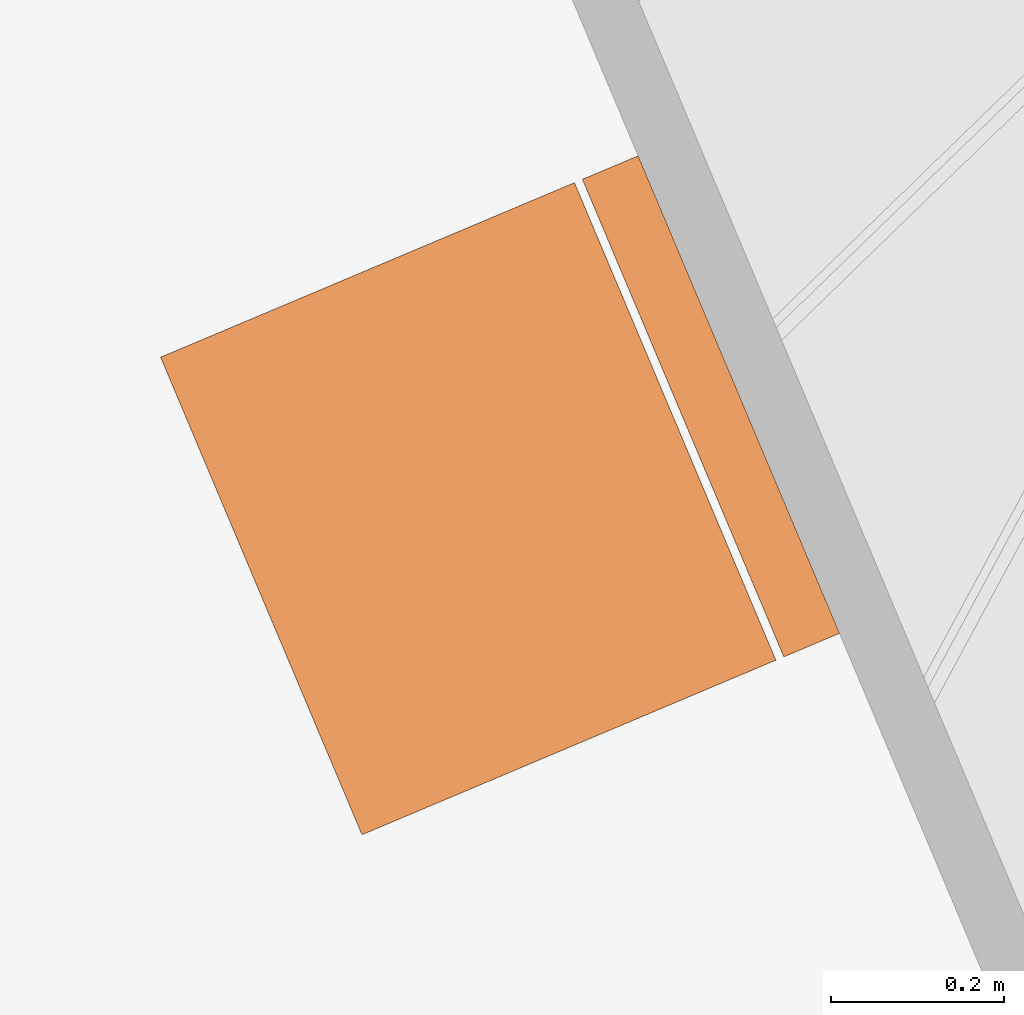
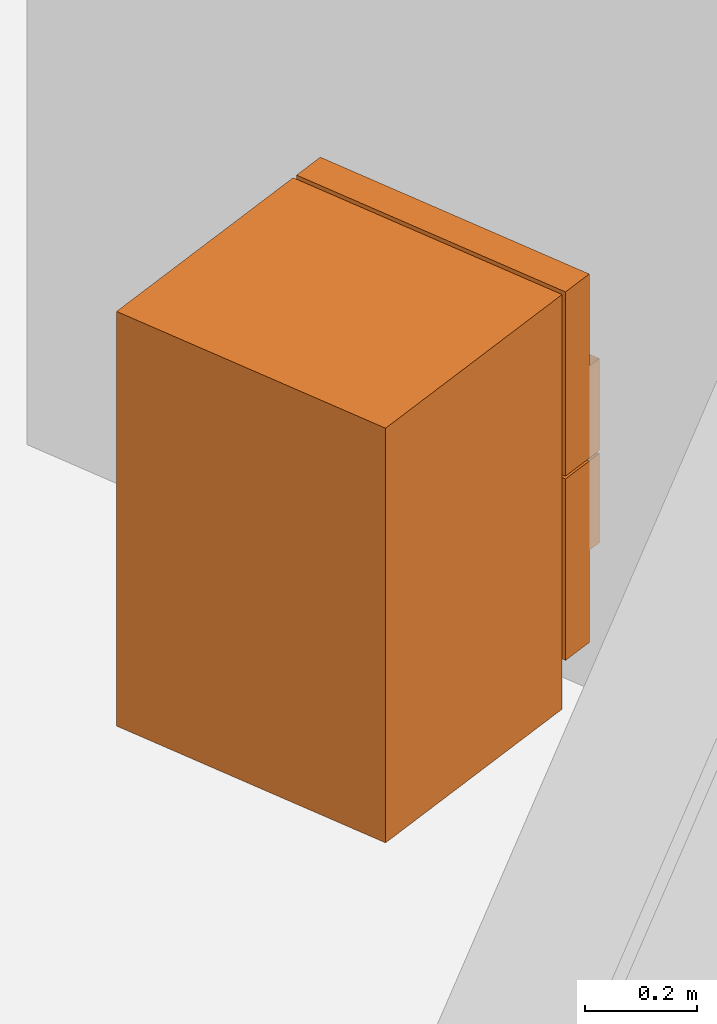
# One storey, part 176 of 195: 1 proxy.
"""IFC2X3 building model written with IfcOpenShell, lengths in metres."""

from ifc_helpers import new_model, entity, si_unit, converted_unit, derived_unit, money_unit, direction, frame, origin_with_axes, place, context, subcontext, project, spatial, open_shell, faceted_brep, surface_model, source, transform, mapped, type_object, element, save


model = new_model("IFC2X3")

# Units and contexts
model_context = context("Model", 3, precision=1e-05, world=origin_with_axes(), true_north=direction((0.0, 1.0)))
body_context = subcontext(model_context, "Body", "Model", "MODEL_VIEW")
ifc_project = project(units=[si_unit("LENGTHUNIT", "METRE"), si_unit("AREAUNIT", "SQUARE_METRE"), si_unit("VOLUMEUNIT", "CUBIC_METRE"), converted_unit("PLANEANGLEUNIT", "DEGREE", entity("IfcPlaneAngleMeasure", 0.0174532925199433), si_unit("PLANEANGLEUNIT", "RADIAN"), dimensions=[0, 0, 0, 0, 0, 0, 0]), money_unit("CHF"), converted_unit("TIMEUNIT", "Year", entity("IfcTimeMeasure", 31557600.0), si_unit("TIMEUNIT", "SECOND"), dimensions=[0, 0, 1, 0, 0, 0, 0]), si_unit("MASSUNIT", "GRAM", prefix="KILO"), si_unit("THERMODYNAMICTEMPERATUREUNIT", "DEGREE_CELSIUS"), si_unit("LUMINOUSINTENSITYUNIT", "LUMEN"), si_unit("ENERGYUNIT", "JOULE", prefix="MEGA"), derived_unit("THERMALCONDUCTANCEUNIT", [(si_unit("POWERUNIT", "WATT"), 1), (si_unit("LENGTHUNIT", "METRE"), -1), (si_unit("THERMODYNAMICTEMPERATUREUNIT", "KELVIN"), -1)]), derived_unit("SPECIFICHEATCAPACITYUNIT", [(si_unit("ENERGYUNIT", "JOULE"), 1), (si_unit("MASSUNIT", "GRAM", prefix="KILO"), -1), (si_unit("THERMODYNAMICTEMPERATUREUNIT", "KELVIN"), -1)]), derived_unit("MASSDENSITYUNIT", [(si_unit("MASSUNIT", "GRAM", prefix="KILO"), 1), (si_unit("VOLUMEUNIT", "CUBIC_METRE"), -1)])], contexts=[model_context])

# Site, building, storey
site_placement = place(None, origin_with_axes())
site = spatial("IfcSite", under=ifc_project, at=site_placement, Name="Site", CompositionType="ELEMENT")
building_placement = place(site_placement, origin_with_axes())
building = spatial("IfcBuilding", under=site, at=building_placement, Name="Bâtiment", CompositionType="ELEMENT")
storey_placement = place(building_placement, origin_with_axes())
storey = spatial("IfcBuildingStorey", under=building, at=storey_placement, Name="rdc", CompositionType="ELEMENT", Elevation=0.0)

# Proxy
building_element_proxy_type = type_object("IfcBuildingElementProxyType", PredefinedType="NOTDEFINED")
shared_shape = source(origin_with_axes(), body_context, "Body", "SurfaceModel", [
    faceted_brep([(0.0, 0.08, 0.1), (0.0, 0.08, 0.9), (-0.6, 0.08, 0.9), (-0.6, 0.08, 0.1), (0.0, 0.6, 0.1), (0.0, 0.6, 0.9), (-0.6, 0.6, 0.9), (-0.6, 0.6, 0.1)], [[[0, 1, 2, 3]], [[4, 5, 1, 0]], [[1, 5, 6, 2]], [[3, 2, 6, 7]], [[0, 3, 7, 4]], [[7, 6, 5, 4]]]),
    faceted_brep([(0.0, 0.08, 0.0), (0.0, 0.08, 0.1), (-0.6, 0.08, 0.1), (-0.6, 0.08, 0.0), (0.0, 0.6, 0.0), (0.0, 0.6, 0.1), (-0.6, 0.6, 0.1), (-0.6, 0.6, 0.0)], [[[0, 1, 2, 3]], [[4, 5, 1, 0]], [[1, 5, 6, 2]], [[3, 2, 6, 7]], [[0, 3, 7, 4]], [[7, 6, 5, 4]]]),
    faceted_brep([(0.0, 0.07, 0.1), (0.0, 0.0, 0.1), (-0.6, 0.0, 0.1), (-0.6, 0.07, 0.1), (0.0, 0.07000000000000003, 0.494), (0.0, 0.0, 0.494), (-0.6, 0.0, 0.494), (-0.6, 0.07000000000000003, 0.494)], [[[0, 1, 2, 3]], [[4, 5, 1, 0]], [[1, 5, 6, 2]], [[3, 2, 6, 7]], [[0, 3, 7, 4]], [[7, 6, 5, 4]]]),
    faceted_brep([(0.0, 0.07, 0.5), (0.0, 0.0, 0.5), (-0.6, 0.0, 0.5), (-0.6, 0.07, 0.5), (0.0, 0.07000000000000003, 0.9), (0.0, 0.0, 0.9), (-0.6, 0.0, 0.9), (-0.6, 0.07000000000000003, 0.9)], [[[0, 1, 2, 3]], [[4, 5, 1, 0]], [[1, 5, 6, 2]], [[3, 2, 6, 7]], [[0, 3, 7, 4]], [[7, 6, 5, 4]]]),
    surface_model("IfcShellBasedSurfaceModel", [(-0.6, -0.03, 0.3), (-0.6, 0.0, 0.3), (-0.6, 0.0, 0.4940000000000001), (-0.6, -0.03, 0.4940000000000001)], [open_shell([[[0, 1, 2, 3]]])]),
    surface_model("IfcShellBasedSurfaceModel", [(-0.6, -0.03, 0.3), (-0.57, -0.03, 0.3), (-0.57, -0.03, 0.4940000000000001), (-0.6, -0.03, 0.4940000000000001)], [open_shell([[[0, 1, 2, 3]]])]),
    surface_model("IfcShellBasedSurfaceModel", [(-0.6, -0.03, 0.5), (-0.6, 0.0, 0.5), (-0.6, 0.0, 0.7), (-0.6, -0.03, 0.7)], [open_shell([[[0, 1, 2, 3]]])]),
    surface_model("IfcShellBasedSurfaceModel", [(-0.6, -0.03, 0.5), (-0.57, -0.03, 0.5), (-0.57, -0.03, 0.7), (-0.6, -0.03, 0.7)], [open_shell([[[0, 1, 2, 3]]])]),
])
proxy_placement = place(storey_placement, frame((9565.943142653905, -1042.598138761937, 57.7), z_axis=(0.0, 0.0, 1.0), x_axis=(-0.3886043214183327, 0.9214047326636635, 0.0)))
element("IfcBuildingElementProxy", 1, at=proxy_placement, inside=storey, type_object=building_element_proxy_type, Name="Obj.-019", context=body_context, shape_type="MappedRepresentation", body=[
    mapped(shared_shape, transform((0.0, 0.0, 0.0))),
])

save(model, "model.ifc")
